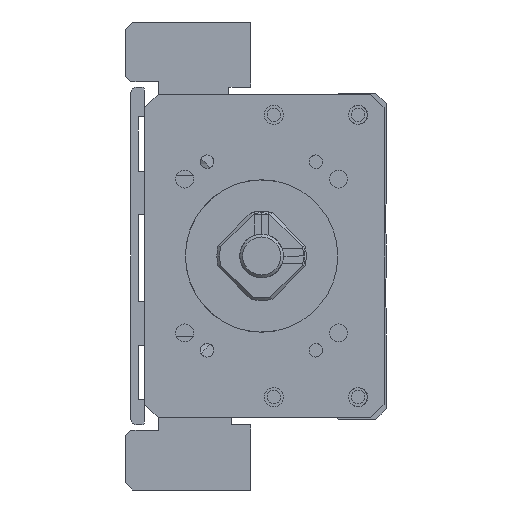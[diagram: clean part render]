
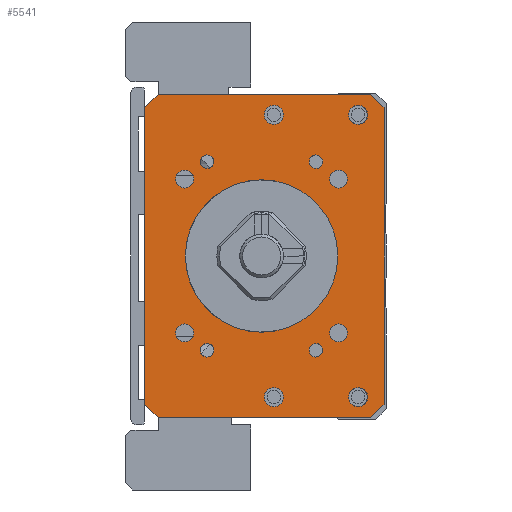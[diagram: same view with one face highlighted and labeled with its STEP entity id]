
A CAD part, left-side view. The second image highlights one B-rep face of the part: STEP entity #5541.
In plain terms, the highlighted planar face has unit normal (-1, 0, 0).
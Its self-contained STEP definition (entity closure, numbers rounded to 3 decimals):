
#5541=ADVANCED_FACE('',(#8855,#8856,#8857,#8858,#8859,#8860,#8861,#8862,
#8863,#8864,#8865,#8866,#8867,#8868),#6317,.F.);
#6317=PLANE('',#17682);
#6867=LINE('',#22919,#7884);
#6869=LINE('',#22943,#7886);
#6870=LINE('',#22945,#7887);
#6871=LINE('',#22947,#7888);
#6872=LINE('',#22949,#7889);
#6873=LINE('',#22951,#7890);
#6874=LINE('',#22953,#7891);
#6875=LINE('',#22955,#7892);
#7884=VECTOR('',#19231,1.);
#7886=VECTOR('',#19255,1.);
#7887=VECTOR('',#19256,1.);
#7888=VECTOR('',#19257,1.);
#7889=VECTOR('',#19258,1.);
#7890=VECTOR('',#19259,1.);
#7891=VECTOR('',#19260,1.);
#7892=VECTOR('',#19261,1.);
#8855=FACE_BOUND('',#9555,.T.);
#8856=FACE_BOUND('',#9556,.T.);
#8857=FACE_BOUND('',#9557,.T.);
#8858=FACE_BOUND('',#9558,.T.);
#8859=FACE_BOUND('',#9559,.T.);
#8860=FACE_BOUND('',#9560,.T.);
#8861=FACE_BOUND('',#9561,.T.);
#8862=FACE_BOUND('',#9562,.T.);
#8863=FACE_BOUND('',#9563,.T.);
#8864=FACE_BOUND('',#9564,.T.);
#8865=FACE_BOUND('',#9565,.T.);
#8866=FACE_BOUND('',#9566,.T.);
#8867=FACE_BOUND('',#9567,.T.);
#8868=FACE_BOUND('',#9568,.T.);
#9555=EDGE_LOOP('',(#10966));
#9556=EDGE_LOOP('',(#10967));
#9557=EDGE_LOOP('',(#10968));
#9558=EDGE_LOOP('',(#10969));
#9559=EDGE_LOOP('',(#10970));
#9560=EDGE_LOOP('',(#10971));
#9561=EDGE_LOOP('',(#10972));
#9562=EDGE_LOOP('',(#10973));
#9563=EDGE_LOOP('',(#10974));
#9564=EDGE_LOOP('',(#10975,#10976,#10977,#10978,#10979,#10980,#10981,#10982));
#9565=EDGE_LOOP('',(#10983));
#9566=EDGE_LOOP('',(#10984));
#9567=EDGE_LOOP('',(#10985));
#9568=EDGE_LOOP('',(#10986));
#10966=ORIENTED_EDGE('',*,*,#15517,.F.);
#10967=ORIENTED_EDGE('',*,*,#15518,.F.);
#10968=ORIENTED_EDGE('',*,*,#15519,.F.);
#10969=ORIENTED_EDGE('',*,*,#15520,.F.);
#10970=ORIENTED_EDGE('',*,*,#15521,.F.);
#10971=ORIENTED_EDGE('',*,*,#15522,.T.);
#10972=ORIENTED_EDGE('',*,*,#15523,.F.);
#10973=ORIENTED_EDGE('',*,*,#15524,.F.);
#10974=ORIENTED_EDGE('',*,*,#15525,.F.);
#10975=ORIENTED_EDGE('',*,*,#15514,.T.);
#10976=ORIENTED_EDGE('',*,*,#15526,.T.);
#10977=ORIENTED_EDGE('',*,*,#15527,.F.);
#10978=ORIENTED_EDGE('',*,*,#15528,.T.);
#10979=ORIENTED_EDGE('',*,*,#15529,.F.);
#10980=ORIENTED_EDGE('',*,*,#15530,.T.);
#10981=ORIENTED_EDGE('',*,*,#15531,.T.);
#10982=ORIENTED_EDGE('',*,*,#15532,.T.);
#10983=ORIENTED_EDGE('',*,*,#15533,.F.);
#10984=ORIENTED_EDGE('',*,*,#15534,.F.);
#10985=ORIENTED_EDGE('',*,*,#15535,.F.);
#10986=ORIENTED_EDGE('',*,*,#15494,.F.);
#14202=VERTEX_POINT('',#22858);
#14222=VERTEX_POINT('',#22918);
#14223=VERTEX_POINT('',#22920);
#14225=VERTEX_POINT('',#22926);
#14226=VERTEX_POINT('',#22928);
#14227=VERTEX_POINT('',#22930);
#14228=VERTEX_POINT('',#22932);
#14229=VERTEX_POINT('',#22934);
#14230=VERTEX_POINT('',#22936);
#14231=VERTEX_POINT('',#22938);
#14232=VERTEX_POINT('',#22940);
#14233=VERTEX_POINT('',#22942);
#14234=VERTEX_POINT('',#22944);
#14235=VERTEX_POINT('',#22946);
#14236=VERTEX_POINT('',#22948);
#14237=VERTEX_POINT('',#22950);
#14238=VERTEX_POINT('',#22952);
#14239=VERTEX_POINT('',#22954);
#14240=VERTEX_POINT('',#22957);
#14241=VERTEX_POINT('',#22959);
#14242=VERTEX_POINT('',#22961);
#15494=EDGE_CURVE('',#14202,#14202,#17104,.T.);
#15514=EDGE_CURVE('',#14223,#14222,#6867,.T.);
#15517=EDGE_CURVE('',#14225,#14225,#17113,.T.);
#15518=EDGE_CURVE('',#14226,#14226,#17114,.T.);
#15519=EDGE_CURVE('',#14227,#14227,#17115,.T.);
#15520=EDGE_CURVE('',#14228,#14228,#17116,.T.);
#15521=EDGE_CURVE('',#14229,#14229,#17117,.T.);
#15522=EDGE_CURVE('',#14230,#14230,#17118,.T.);
#15523=EDGE_CURVE('',#14231,#14231,#17119,.T.);
#15524=EDGE_CURVE('',#14232,#14232,#17120,.T.);
#15525=EDGE_CURVE('',#14233,#14233,#17121,.T.);
#15526=EDGE_CURVE('',#14222,#14234,#6869,.T.);
#15527=EDGE_CURVE('',#14235,#14234,#6870,.T.);
#15528=EDGE_CURVE('',#14235,#14236,#6871,.T.);
#15529=EDGE_CURVE('',#14237,#14236,#6872,.T.);
#15530=EDGE_CURVE('',#14237,#14238,#6873,.T.);
#15531=EDGE_CURVE('',#14238,#14239,#6874,.T.);
#15532=EDGE_CURVE('',#14239,#14223,#6875,.T.);
#15533=EDGE_CURVE('',#14240,#14240,#17122,.T.);
#15534=EDGE_CURVE('',#14241,#14241,#17123,.T.);
#15535=EDGE_CURVE('',#14242,#14242,#17124,.T.);
#17104=CIRCLE('',#17659,14.);
#17113=CIRCLE('',#17670,1.65);
#17114=CIRCLE('',#17671,1.65);
#17115=CIRCLE('',#17672,1.65);
#17116=CIRCLE('',#17673,1.65);
#17117=CIRCLE('',#17674,1.25);
#17118=CIRCLE('',#17675,1.75);
#17119=CIRCLE('',#17676,1.25);
#17120=CIRCLE('',#17677,1.75);
#17121=CIRCLE('',#17678,1.25);
#17122=CIRCLE('',#17679,1.75);
#17123=CIRCLE('',#17680,1.75);
#17124=CIRCLE('',#17681,1.25);
#17659=AXIS2_PLACEMENT_3D('',#22857,#19205,#19206);
#17670=AXIS2_PLACEMENT_3D('',#22925,#19237,#19238);
#17671=AXIS2_PLACEMENT_3D('',#22927,#19239,#19240);
#17672=AXIS2_PLACEMENT_3D('',#22929,#19241,#19242);
#17673=AXIS2_PLACEMENT_3D('',#22931,#19243,#19244);
#17674=AXIS2_PLACEMENT_3D('',#22933,#19245,#19246);
#17675=AXIS2_PLACEMENT_3D('',#22935,#19247,#19248);
#17676=AXIS2_PLACEMENT_3D('',#22937,#19249,#19250);
#17677=AXIS2_PLACEMENT_3D('',#22939,#19251,#19252);
#17678=AXIS2_PLACEMENT_3D('',#22941,#19253,#19254);
#17679=AXIS2_PLACEMENT_3D('',#22956,#19262,#19263);
#17680=AXIS2_PLACEMENT_3D('',#22958,#19264,#19265);
#17681=AXIS2_PLACEMENT_3D('',#22960,#19266,#19267);
#17682=AXIS2_PLACEMENT_3D('',#22962,#19268,#19269);
#19205=DIRECTION('',(-1.,0.,0.));
#19206=DIRECTION('',(0.,1.,0.));
#19231=DIRECTION('',(0.,0.,-1.));
#19237=DIRECTION('',(-1.,0.,0.));
#19238=DIRECTION('',(0.,0.,1.));
#19239=DIRECTION('',(-1.,0.,0.));
#19240=DIRECTION('',(0.,0.,1.));
#19241=DIRECTION('',(-1.,0.,0.));
#19242=DIRECTION('',(0.,0.,1.));
#19243=DIRECTION('',(-1.,0.,0.));
#19244=DIRECTION('',(0.,0.,1.));
#19245=DIRECTION('',(-1.,0.,0.));
#19246=DIRECTION('',(0.,1.,0.));
#19247=DIRECTION('',(1.,0.,0.));
#19248=DIRECTION('',(0.,0.,1.));
#19249=DIRECTION('',(-1.,0.,0.));
#19250=DIRECTION('',(0.,1.,0.));
#19251=DIRECTION('',(-1.,0.,0.));
#19252=DIRECTION('',(0.,0.,1.));
#19253=DIRECTION('',(-1.,0.,0.));
#19254=DIRECTION('',(0.,1.,0.));
#19255=DIRECTION('',(0.,-0.707,-0.707));
#19256=DIRECTION('',(0.,1.,0.));
#19257=DIRECTION('',(0.,-0.707,0.707));
#19258=DIRECTION('',(0.,0.,-1.));
#19259=DIRECTION('',(0.,0.707,0.707));
#19260=DIRECTION('',(0.,1.,0.));
#19261=DIRECTION('',(0.,0.707,-0.707));
#19262=DIRECTION('',(-1.,0.,0.));
#19263=DIRECTION('',(0.,0.,1.));
#19264=DIRECTION('',(-1.,0.,0.));
#19265=DIRECTION('',(0.,0.,1.));
#19266=DIRECTION('',(-1.,0.,0.));
#19267=DIRECTION('',(0.,1.,0.));
#19268=DIRECTION('',(1.,0.,0.));
#19269=DIRECTION('',(0.,1.,0.));
#22857=CARTESIAN_POINT('',(-211.,0.,0.));
#22858=CARTESIAN_POINT('',(-211.,14.,0.));
#22918=CARTESIAN_POINT('',(-211.,21.499,-27.25));
#22919=CARTESIAN_POINT('',(-211.,21.499,29.75));
#22920=CARTESIAN_POINT('',(-211.,21.499,27.25));
#22925=CARTESIAN_POINT('',(-211.,14.142,14.142));
#22926=CARTESIAN_POINT('',(-211.,14.142,15.792));
#22927=CARTESIAN_POINT('',(-211.,-14.142,14.142));
#22928=CARTESIAN_POINT('',(-211.,-14.142,15.792));
#22929=CARTESIAN_POINT('',(-211.,14.142,-14.142));
#22930=CARTESIAN_POINT('',(-211.,14.142,-12.492));
#22931=CARTESIAN_POINT('',(-211.,-14.142,-14.142));
#22932=CARTESIAN_POINT('',(-211.,-14.142,-12.492));
#22933=CARTESIAN_POINT('',(-211.,-10.,-17.321));
#22934=CARTESIAN_POINT('',(-211.,-8.75,-17.321));
#22935=CARTESIAN_POINT('',(-211.,-2.25,-25.936));
#22936=CARTESIAN_POINT('',(-211.,-2.25,-24.186));
#22937=CARTESIAN_POINT('',(-211.,10.,17.321));
#22938=CARTESIAN_POINT('',(-211.,11.25,17.321));
#22939=CARTESIAN_POINT('',(-211.,-2.25,25.936));
#22940=CARTESIAN_POINT('',(-211.,-2.25,27.686));
#22941=CARTESIAN_POINT('',(-211.,10.,-17.321));
#22942=CARTESIAN_POINT('',(-211.,11.25,-17.321));
#22943=CARTESIAN_POINT('',(-211.,18.999,-29.75));
#22944=CARTESIAN_POINT('',(-211.,18.999,-29.75));
#22945=CARTESIAN_POINT('',(-211.,-22.501,-29.75));
#22946=CARTESIAN_POINT('',(-211.,-20.001,-29.75));
#22947=CARTESIAN_POINT('',(-211.,-22.501,-27.25));
#22948=CARTESIAN_POINT('',(-211.,-22.501,-27.25));
#22949=CARTESIAN_POINT('',(-211.,-22.501,29.75));
#22950=CARTESIAN_POINT('',(-211.,-22.501,27.25));
#22951=CARTESIAN_POINT('',(-211.,-22.501,27.25));
#22952=CARTESIAN_POINT('',(-211.,-20.001,29.75));
#22953=CARTESIAN_POINT('',(-211.,-22.501,29.75));
#22954=CARTESIAN_POINT('',(-211.,18.999,29.75));
#22955=CARTESIAN_POINT('',(-211.,18.999,29.75));
#22956=CARTESIAN_POINT('',(-211.,-17.75,25.936));
#22957=CARTESIAN_POINT('',(-211.,-17.75,27.686));
#22958=CARTESIAN_POINT('',(-211.,-17.75,-25.936));
#22959=CARTESIAN_POINT('',(-211.,-17.75,-24.186));
#22960=CARTESIAN_POINT('',(-211.,-10.,17.321));
#22961=CARTESIAN_POINT('',(-211.,-8.75,17.321));
#22962=CARTESIAN_POINT('',(-211.,-22.501,29.75));
